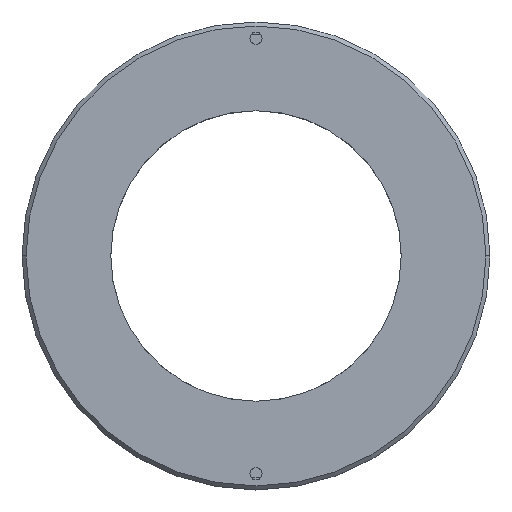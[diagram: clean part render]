
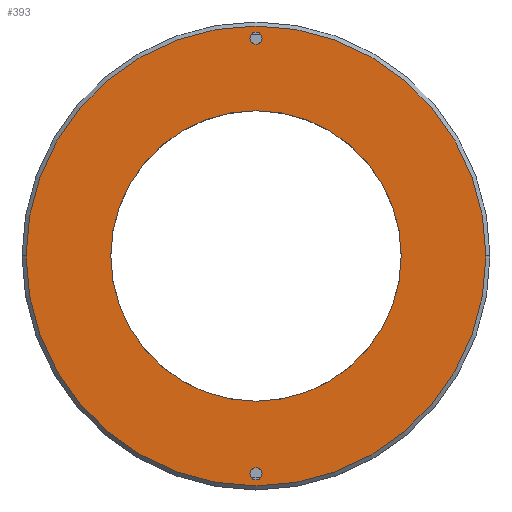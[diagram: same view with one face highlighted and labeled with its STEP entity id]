
A CAD part, top view. The second image highlights one B-rep face of the part: STEP entity #393.
In plain terms, the highlighted planar face has unit normal (0, 0, 1).
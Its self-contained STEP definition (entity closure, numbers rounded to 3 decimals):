
#39 = EDGE_LOOP ( 'NONE', ( #993, #1047 ) ) ;
#52 = AXIS2_PLACEMENT_3D ( 'NONE', #1068, #485, #1165 ) ;
#64 = AXIS2_PLACEMENT_3D ( 'NONE', #935, #555, #550 ) ;
#66 = CARTESIAN_POINT ( 'NONE',  ( -3.671, -24.664, 7. ) ) ;
#84 = EDGE_CURVE ( 'NONE', #222, #641, #812, .T. ) ;
#108 = CARTESIAN_POINT ( 'NONE',  ( -32.171, 2.336, 7. ) ) ;
#110 = CARTESIAN_POINT ( 'NONE',  ( -3.671, 2.336, 7. ) ) ;
#159 = ORIENTED_EDGE ( 'NONE', *, *, #1224, .T. ) ;
#162 = ORIENTED_EDGE ( 'NONE', *, *, #240, .F. ) ;
#168 = DIRECTION ( 'NONE',  ( -1., 0., 0. ) ) ;
#170 = CIRCLE ( 'NONE', #547, 0.75 ) ;
#201 = DIRECTION ( 'NONE',  ( 0., 0., 1. ) ) ;
#222 = VERTEX_POINT ( 'NONE', #1169 ) ;
#223 = CARTESIAN_POINT ( 'NONE',  ( -4.421, -24.664, 7. ) ) ;
#233 = FACE_BOUND ( 'NONE', #39, .T. ) ;
#240 = EDGE_CURVE ( 'NONE', #641, #222, #1225, .T. ) ;
#241 = EDGE_LOOP ( 'NONE', ( #707, #1020 ) ) ;
#246 = VERTEX_POINT ( 'NONE', #223 ) ;
#305 = CARTESIAN_POINT ( 'NONE',  ( -3.671, 2.336, 7. ) ) ;
#311 = CARTESIAN_POINT ( 'NONE',  ( -2.921, 29.336, 7. ) ) ;
#333 = EDGE_CURVE ( 'NONE', #246, #968, #530, .T. ) ;
#342 = CIRCLE ( 'NONE', #1203, 28.5 ) ;
#346 = CARTESIAN_POINT ( 'NONE',  ( 24.829, 2.336, 7. ) ) ;
#377 = CARTESIAN_POINT ( 'NONE',  ( -2.921, -24.664, 7. ) ) ;
#393 = ADVANCED_FACE ( 'NONE', ( #233, #1237, #726, #944 ), #562, .T. ) ;
#411 = CIRCLE ( 'NONE', #52, 0.75 ) ;
#485 = DIRECTION ( 'NONE',  ( 0., 0., 1. ) ) ;
#494 = AXIS2_PLACEMENT_3D ( 'NONE', #305, #716, #885 ) ;
#505 = VERTEX_POINT ( 'NONE', #108 ) ;
#521 = CARTESIAN_POINT ( 'NONE',  ( -3.671, 2.336, 7. ) ) ;
#527 = DIRECTION ( 'NONE',  ( 0., 0., 1. ) ) ;
#530 = CIRCLE ( 'NONE', #626, 0.75 ) ;
#547 = AXIS2_PLACEMENT_3D ( 'NONE', #66, #761, #168 ) ;
#549 = DIRECTION ( 'NONE',  ( 0., 0., 1. ) ) ;
#550 = DIRECTION ( 'NONE',  ( 1., 0., 0. ) ) ;
#555 = DIRECTION ( 'NONE',  ( 0., 0., 1. ) ) ;
#562 = PLANE ( 'NONE',  #64 ) ;
#599 = DIRECTION ( 'NONE',  ( 0., 0., 1. ) ) ;
#602 = VERTEX_POINT ( 'NONE', #1272 ) ;
#606 = DIRECTION ( 'NONE',  ( 0., -1., 0. ) ) ;
#616 = EDGE_LOOP ( 'NONE', ( #948, #162 ) ) ;
#626 = AXIS2_PLACEMENT_3D ( 'NONE', #853, #929, #937 ) ;
#641 = VERTEX_POINT ( 'NONE', #693 ) ;
#693 = CARTESIAN_POINT ( 'NONE',  ( -3.671, 20.336, 7. ) ) ;
#707 = ORIENTED_EDGE ( 'NONE', *, *, #1155, .F. ) ;
#716 = DIRECTION ( 'NONE',  ( 0., 0., 1. ) ) ;
#726 = FACE_OUTER_BOUND ( 'NONE', #1039, .T. ) ;
#761 = DIRECTION ( 'NONE',  ( 0., 0., 1. ) ) ;
#792 = CARTESIAN_POINT ( 'NONE',  ( -3.671, 2.336, 7. ) ) ;
#812 = CIRCLE ( 'NONE', #1137, 18. ) ;
#853 = CARTESIAN_POINT ( 'NONE',  ( -3.671, -24.664, 7. ) ) ;
#856 = CIRCLE ( 'NONE', #1240, 28.5 ) ;
#885 = DIRECTION ( 'NONE',  ( 0., -1., 0. ) ) ;
#886 = DIRECTION ( 'NONE',  ( 1., 0., 0. ) ) ;
#905 = EDGE_CURVE ( 'NONE', #968, #246, #170, .T. ) ;
#929 = DIRECTION ( 'NONE',  ( 0., 0., 1. ) ) ;
#935 = CARTESIAN_POINT ( 'NONE',  ( -3.671, 2.336, 7. ) ) ;
#937 = DIRECTION ( 'NONE',  ( -1., 0., 0. ) ) ;
#944 = FACE_BOUND ( 'NONE', #616, .T. ) ;
#948 = ORIENTED_EDGE ( 'NONE', *, *, #84, .F. ) ;
#968 = VERTEX_POINT ( 'NONE', #377 ) ;
#988 = EDGE_CURVE ( 'NONE', #602, #1251, #411, .T. ) ;
#993 = ORIENTED_EDGE ( 'NONE', *, *, #905, .F. ) ;
#1006 = EDGE_CURVE ( 'NONE', #505, #1159, #342, .T. ) ;
#1020 = ORIENTED_EDGE ( 'NONE', *, *, #988, .F. ) ;
#1038 = AXIS2_PLACEMENT_3D ( 'NONE', #1122, #549, #1227 ) ;
#1039 = EDGE_LOOP ( 'NONE', ( #1178, #159 ) ) ;
#1047 = ORIENTED_EDGE ( 'NONE', *, *, #333, .F. ) ;
#1068 = CARTESIAN_POINT ( 'NONE',  ( -3.671, 29.336, 7. ) ) ;
#1114 = CIRCLE ( 'NONE', #1038, 0.75 ) ;
#1122 = CARTESIAN_POINT ( 'NONE',  ( -3.671, 29.336, 7. ) ) ;
#1137 = AXIS2_PLACEMENT_3D ( 'NONE', #521, #599, #606 ) ;
#1155 = EDGE_CURVE ( 'NONE', #1251, #602, #1114, .T. ) ;
#1159 = VERTEX_POINT ( 'NONE', #346 ) ;
#1165 = DIRECTION ( 'NONE',  ( 1., 0., 0. ) ) ;
#1169 = CARTESIAN_POINT ( 'NONE',  ( -3.671, -15.664, 7. ) ) ;
#1178 = ORIENTED_EDGE ( 'NONE', *, *, #1006, .T. ) ;
#1203 = AXIS2_PLACEMENT_3D ( 'NONE', #110, #527, #1205 ) ;
#1205 = DIRECTION ( 'NONE',  ( 1., 0., 0. ) ) ;
#1224 = EDGE_CURVE ( 'NONE', #1159, #505, #856, .T. ) ;
#1225 = CIRCLE ( 'NONE', #494, 18. ) ;
#1227 = DIRECTION ( 'NONE',  ( 1., 0., 0. ) ) ;
#1237 = FACE_BOUND ( 'NONE', #241, .T. ) ;
#1240 = AXIS2_PLACEMENT_3D ( 'NONE', #792, #201, #886 ) ;
#1251 = VERTEX_POINT ( 'NONE', #311 ) ;
#1272 = CARTESIAN_POINT ( 'NONE',  ( -4.421, 29.336, 7. ) ) ;
